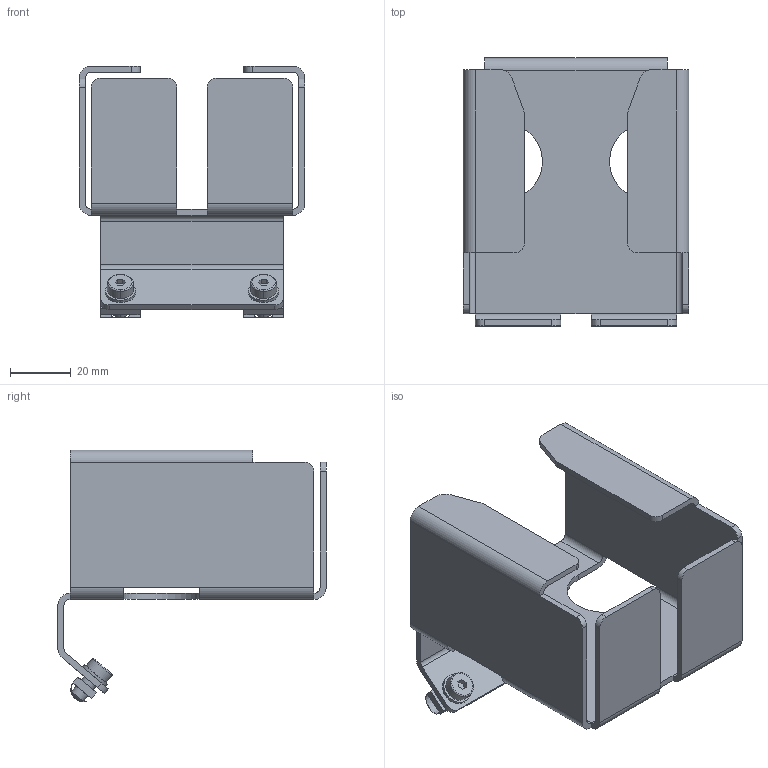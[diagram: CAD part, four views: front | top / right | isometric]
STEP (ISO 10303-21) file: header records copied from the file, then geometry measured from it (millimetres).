
FILE_DESCRIPTION((''),'2;1');
FILE_NAME('9806000141_ASM','2023-03-23T11:56:23',('Stephanie.Hoppe'),(''),'CREO PARAMETRIC BY PTC INC, 2022124','CREO PARAMETRIC BY PTC INC, 2022124','');
FILE_SCHEMA(('AUTOMOTIVE_DESIGN { 1 0 10303 214 1 1 1 1 }'));
Length unit declared in the file: millimetre
Products named in the file (5): 9514171000; 9281836000; 9262060000; 9261460000; 9806000141_ASM
Assembly tree (7 placements, depth 2):
  9806000141_ASM
    9514171000
    9281836000  x2
    9262060000  x2
    9261460000  x2
Bounding box: 74 x 88 x 82.61 mm (x, y, z)
Volume: 38566.1 mm3; surface area: 41680.3 mm2
Topology: 7 solids, 9 shells, 186 faces, 474 edges, 304 vertices
Faces by surface type: plane 86, cylinder 76, bspline 12, extrusion 4, cone 4, torus 4
Entity records: 9254 total; most frequent: CARTESIAN_POINT 2300, DIRECTION 850, ORIENTED_EDGE 706, PRESENTATION_STYLE_ASSIGNMENT 382, STYLED_ITEM 382, CURVE_STYLE 377, EDGE_CURVE 355, PROPERTY_DEFINITION 304
